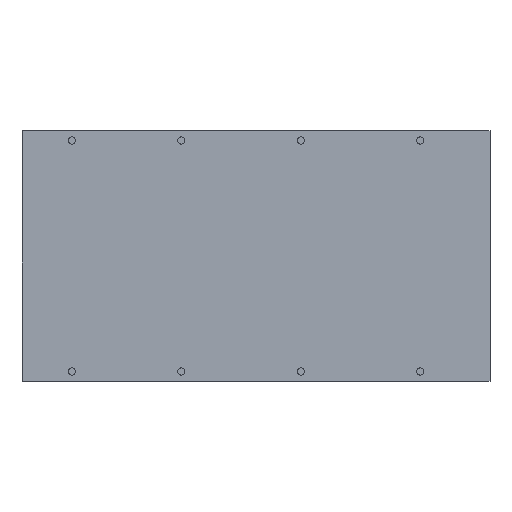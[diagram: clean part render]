
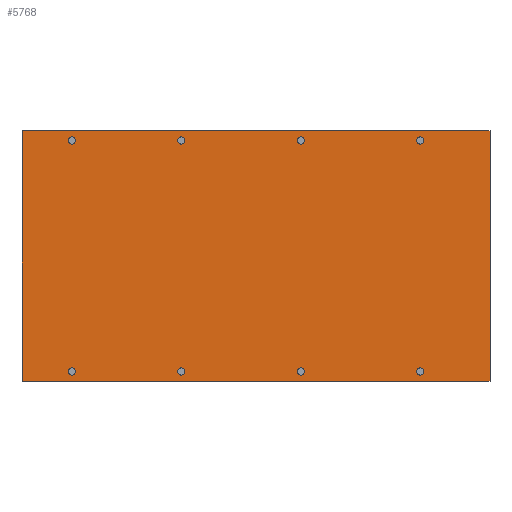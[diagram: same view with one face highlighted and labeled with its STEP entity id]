
A CAD part, top view. The second image highlights one B-rep face of the part: STEP entity #5768.
In plain terms, the highlighted planar face has unit normal (0, 0, 1).
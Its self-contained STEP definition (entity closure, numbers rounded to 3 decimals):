
#5704 = VERTEX_POINT('',#5705);
#5705 = CARTESIAN_POINT('',(0.,-14.,65.));
#5720 = VERTEX_POINT('',#5721);
#5721 = CARTESIAN_POINT('',(0.,112.,65.));
#5727 = EDGE_CURVE('',#5704,#5720,#5728,.T.);
#5728 = LINE('',#5729,#5730);
#5729 = CARTESIAN_POINT('',(0.,-14.,65.));
#5730 = VECTOR('',#5731,1.);
#5731 = DIRECTION('',(0.,1.,0.));
#5750 = EDGE_CURVE('',#5704,#5751,#5753,.T.);
#5751 = VERTEX_POINT('',#5752);
#5752 = CARTESIAN_POINT('',(235.,-14.,65.));
#5753 = LINE('',#5754,#5755);
#5754 = CARTESIAN_POINT('',(0.,-14.,65.));
#5755 = VECTOR('',#5756,1.);
#5756 = DIRECTION('',(1.,0.,0.));
#5768 = ADVANCED_FACE('',(#5769,#5787,#5798,#5809,#5820,#5831,#5842,
    #5853,#5864),#5875,.T.);
#5769 = FACE_BOUND('',#5770,.T.);
#5770 = EDGE_LOOP('',(#5771,#5772,#5773,#5781));
#5771 = ORIENTED_EDGE('',*,*,#5727,.F.);
#5772 = ORIENTED_EDGE('',*,*,#5750,.T.);
#5773 = ORIENTED_EDGE('',*,*,#5774,.T.);
#5774 = EDGE_CURVE('',#5751,#5775,#5777,.T.);
#5775 = VERTEX_POINT('',#5776);
#5776 = CARTESIAN_POINT('',(235.,112.,65.));
#5777 = LINE('',#5778,#5779);
#5778 = CARTESIAN_POINT('',(235.,-14.,65.));
#5779 = VECTOR('',#5780,1.);
#5780 = DIRECTION('',(0.,1.,0.));
#5781 = ORIENTED_EDGE('',*,*,#5782,.F.);
#5782 = EDGE_CURVE('',#5720,#5775,#5783,.T.);
#5783 = LINE('',#5784,#5785);
#5784 = CARTESIAN_POINT('',(0.,112.,65.));
#5785 = VECTOR('',#5786,1.);
#5786 = DIRECTION('',(1.,0.,0.));
#5787 = FACE_BOUND('',#5788,.T.);
#5788 = EDGE_LOOP('',(#5789));
#5789 = ORIENTED_EDGE('',*,*,#5790,.F.);
#5790 = EDGE_CURVE('',#5791,#5791,#5793,.T.);
#5791 = VERTEX_POINT('',#5792);
#5792 = CARTESIAN_POINT('',(26.8,-9.,65.));
#5793 = CIRCLE('',#5794,1.8);
#5794 = AXIS2_PLACEMENT_3D('',#5795,#5796,#5797);
#5795 = CARTESIAN_POINT('',(25.,-9.,65.));
#5796 = DIRECTION('',(0.,0.,1.));
#5797 = DIRECTION('',(1.,0.,0.));
#5798 = FACE_BOUND('',#5799,.T.);
#5799 = EDGE_LOOP('',(#5800));
#5800 = ORIENTED_EDGE('',*,*,#5801,.F.);
#5801 = EDGE_CURVE('',#5802,#5802,#5804,.T.);
#5802 = VERTEX_POINT('',#5803);
#5803 = CARTESIAN_POINT('',(81.8,-9.,65.));
#5804 = CIRCLE('',#5805,1.8);
#5805 = AXIS2_PLACEMENT_3D('',#5806,#5807,#5808);
#5806 = CARTESIAN_POINT('',(80.,-9.,65.));
#5807 = DIRECTION('',(0.,0.,1.));
#5808 = DIRECTION('',(1.,0.,0.));
#5809 = FACE_BOUND('',#5810,.T.);
#5810 = EDGE_LOOP('',(#5811));
#5811 = ORIENTED_EDGE('',*,*,#5812,.F.);
#5812 = EDGE_CURVE('',#5813,#5813,#5815,.T.);
#5813 = VERTEX_POINT('',#5814);
#5814 = CARTESIAN_POINT('',(141.8,-9.,65.));
#5815 = CIRCLE('',#5816,1.8);
#5816 = AXIS2_PLACEMENT_3D('',#5817,#5818,#5819);
#5817 = CARTESIAN_POINT('',(140.,-9.,65.));
#5818 = DIRECTION('',(0.,0.,1.));
#5819 = DIRECTION('',(1.,0.,0.));
#5820 = FACE_BOUND('',#5821,.T.);
#5821 = EDGE_LOOP('',(#5822));
#5822 = ORIENTED_EDGE('',*,*,#5823,.F.);
#5823 = EDGE_CURVE('',#5824,#5824,#5826,.T.);
#5824 = VERTEX_POINT('',#5825);
#5825 = CARTESIAN_POINT('',(201.8,-9.,65.));
#5826 = CIRCLE('',#5827,1.8);
#5827 = AXIS2_PLACEMENT_3D('',#5828,#5829,#5830);
#5828 = CARTESIAN_POINT('',(200.,-9.,65.));
#5829 = DIRECTION('',(0.,0.,1.));
#5830 = DIRECTION('',(1.,0.,0.));
#5831 = FACE_BOUND('',#5832,.T.);
#5832 = EDGE_LOOP('',(#5833));
#5833 = ORIENTED_EDGE('',*,*,#5834,.F.);
#5834 = EDGE_CURVE('',#5835,#5835,#5837,.T.);
#5835 = VERTEX_POINT('',#5836);
#5836 = CARTESIAN_POINT('',(26.8,107.,65.));
#5837 = CIRCLE('',#5838,1.8);
#5838 = AXIS2_PLACEMENT_3D('',#5839,#5840,#5841);
#5839 = CARTESIAN_POINT('',(25.,107.,65.));
#5840 = DIRECTION('',(0.,0.,1.));
#5841 = DIRECTION('',(1.,0.,0.));
#5842 = FACE_BOUND('',#5843,.T.);
#5843 = EDGE_LOOP('',(#5844));
#5844 = ORIENTED_EDGE('',*,*,#5845,.F.);
#5845 = EDGE_CURVE('',#5846,#5846,#5848,.T.);
#5846 = VERTEX_POINT('',#5847);
#5847 = CARTESIAN_POINT('',(81.8,107.,65.));
#5848 = CIRCLE('',#5849,1.8);
#5849 = AXIS2_PLACEMENT_3D('',#5850,#5851,#5852);
#5850 = CARTESIAN_POINT('',(80.,107.,65.));
#5851 = DIRECTION('',(0.,0.,1.));
#5852 = DIRECTION('',(1.,0.,0.));
#5853 = FACE_BOUND('',#5854,.T.);
#5854 = EDGE_LOOP('',(#5855));
#5855 = ORIENTED_EDGE('',*,*,#5856,.F.);
#5856 = EDGE_CURVE('',#5857,#5857,#5859,.T.);
#5857 = VERTEX_POINT('',#5858);
#5858 = CARTESIAN_POINT('',(141.8,107.,65.));
#5859 = CIRCLE('',#5860,1.8);
#5860 = AXIS2_PLACEMENT_3D('',#5861,#5862,#5863);
#5861 = CARTESIAN_POINT('',(140.,107.,65.));
#5862 = DIRECTION('',(0.,0.,1.));
#5863 = DIRECTION('',(1.,0.,0.));
#5864 = FACE_BOUND('',#5865,.T.);
#5865 = EDGE_LOOP('',(#5866));
#5866 = ORIENTED_EDGE('',*,*,#5867,.F.);
#5867 = EDGE_CURVE('',#5868,#5868,#5870,.T.);
#5868 = VERTEX_POINT('',#5869);
#5869 = CARTESIAN_POINT('',(201.8,107.,65.));
#5870 = CIRCLE('',#5871,1.8);
#5871 = AXIS2_PLACEMENT_3D('',#5872,#5873,#5874);
#5872 = CARTESIAN_POINT('',(200.,107.,65.));
#5873 = DIRECTION('',(0.,0.,1.));
#5874 = DIRECTION('',(1.,0.,0.));
#5875 = PLANE('',#5876);
#5876 = AXIS2_PLACEMENT_3D('',#5877,#5878,#5879);
#5877 = CARTESIAN_POINT('',(0.,-14.,65.));
#5878 = DIRECTION('',(0.,0.,1.));
#5879 = DIRECTION('',(1.,0.,0.));
